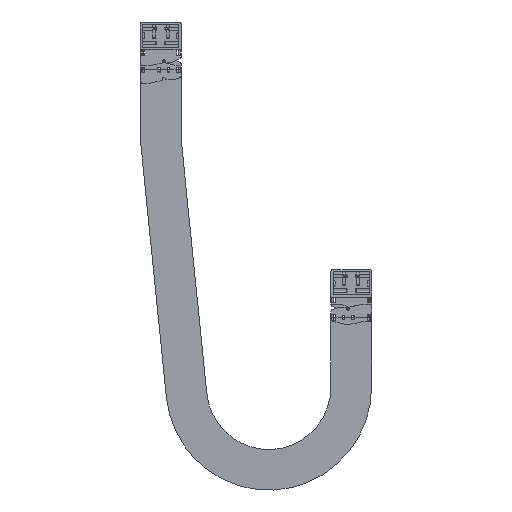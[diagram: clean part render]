
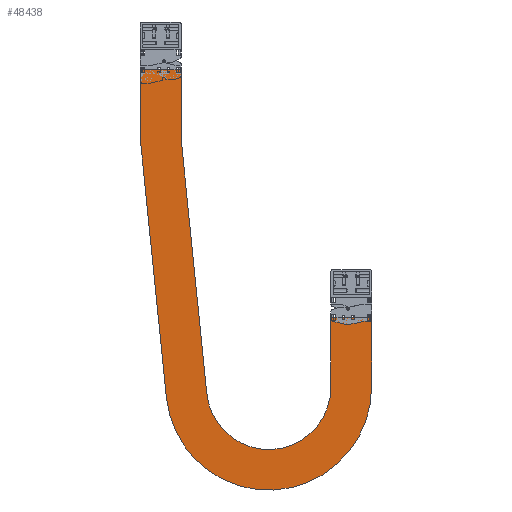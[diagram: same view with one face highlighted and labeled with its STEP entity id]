
A CAD part, left-side view. The second image highlights one B-rep face of the part: STEP entity #48438.
In plain terms, the highlighted planar face has unit normal (-1, 0, 0).
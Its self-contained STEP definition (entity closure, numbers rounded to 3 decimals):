
#47048=DIRECTION('',(0.,1.,0.));
#47049=VECTOR('',#47048,64.);
#47050=CARTESIAN_POINT('',(-35.,300.,0.));
#47051=LINE('',#47050,#47049);
#47261=DIRECTION('',(0.,-1.,0.));
#47262=VECTOR('',#47261,64.);
#47263=CARTESIAN_POINT('',(-35.,64.,-390.));
#47264=LINE('',#47263,#47262);
#47548=DIRECTION('',(0.,0.,-1.));
#47549=VECTOR('',#47548,111.863);
#47550=CARTESIAN_POINT('',(-35.,364.,0.));
#47551=LINE('',#47550,#47549);
#47555=DIRECTION('',(0.,0.,-1.));
#47556=VECTOR('',#47555,108.641);
#47557=CARTESIAN_POINT('',(-35.,300.,0.));
#47558=LINE('',#47557,#47556);
#47562=DIRECTION('',(0.,-0.1,-0.995));
#47563=VECTOR('',#47562,403.239);
#47564=CARTESIAN_POINT('',(-35.,300.,-108.641));
#47565=LINE('',#47564,#47563);
#47569=CARTESIAN_POINT('',(-35.,162.,-500.));
#47570=DIRECTION('',(-1.,0.,0.));
#47571=DIRECTION('',(0.,0.995,-0.1));
#47572=AXIS2_PLACEMENT_3D('',#47569,#47570,#47571);
#47577=DIRECTION('',(0.,0.,1.));
#47578=VECTOR('',#47577,110.);
#47579=CARTESIAN_POINT('',(-35.,64.,-500.));
#47580=LINE('',#47579,#47578);
#47591=DIRECTION('',(0.,0.,1.));
#47592=VECTOR('',#47591,110.);
#47593=CARTESIAN_POINT('',(-35.,0.,-500.));
#47594=LINE('',#47593,#47592);
#47605=CARTESIAN_POINT('',(-35.,162.,-500.));
#47606=DIRECTION('',(-1.,0.,0.));
#47607=DIRECTION('',(0.,0.995,-0.1));
#47608=AXIS2_PLACEMENT_3D('',#47605,#47606,#47607);
#47620=DIRECTION('',(0.,-0.1,-0.995));
#47621=VECTOR('',#47620,406.461);
#47622=CARTESIAN_POINT('',(-35.,364.,-111.863));
#47623=LINE('',#47622,#47621);
#47644=CARTESIAN_POINT('',(-35.,300.,0.));
#47646=VERTEX_POINT('',#47644);
#47647=CARTESIAN_POINT('',(-35.,364.,0.));
#47648=VERTEX_POINT('',#47647);
#47668=CARTESIAN_POINT('',(-35.,300.,-108.641));
#47670=VERTEX_POINT('',#47668);
#47671=CARTESIAN_POINT('',(-35.,364.,-111.863));
#47673=VERTEX_POINT('',#47671);
#47692=CARTESIAN_POINT('',(-35.,259.505,-509.842));
#47694=VERTEX_POINT('',#47692);
#47695=CARTESIAN_POINT('',(-35.,323.181,-516.269));
#47697=VERTEX_POINT('',#47695);
#47716=CARTESIAN_POINT('',(-35.,64.,-500.));
#47718=VERTEX_POINT('',#47716);
#47719=CARTESIAN_POINT('',(-35.,0.,-500.));
#47721=VERTEX_POINT('',#47719);
#47740=CARTESIAN_POINT('',(-35.,64.,-390.));
#47742=VERTEX_POINT('',#47740);
#47743=CARTESIAN_POINT('',(-35.,0.,-390.));
#47744=VERTEX_POINT('',#47743);
#48418=CARTESIAN_POINT('',(-35.,300.,0.));
#48419=DIRECTION('',(-1.,0.,0.));
#48420=DIRECTION('',(0.,1.,0.));
#48421=AXIS2_PLACEMENT_3D('',#48418,#48419,#48420);
#48422=PLANE('',#48421);
#48423=ORIENTED_EDGE('',*,*,#47754,.F.);
#48424=ORIENTED_EDGE('',*,*,#48356,.T.);
#48425=ORIENTED_EDGE('',*,*,#48335,.T.);
#48426=ORIENTED_EDGE('',*,*,#48313,.T.);
#48427=ORIENTED_EDGE('',*,*,#48291,.T.);
#48428=ORIENTED_EDGE('',*,*,#47969,.T.);
#48430=ORIENTED_EDGE('',*,*,#48429,.F.);
#48432=ORIENTED_EDGE('',*,*,#48431,.F.);
#48434=ORIENTED_EDGE('',*,*,#48433,.F.);
#48435=ORIENTED_EDGE('',*,*,#48403,.F.);
#48436=EDGE_LOOP('',(#48423,#48424,#48425,#48426,#48427,#48428,#48430,#48432,
#48434,#48435));
#48437=FACE_OUTER_BOUND('',#48436,.F.);
#47573=CIRCLE('',#47572,98.);
#47609=CIRCLE('',#47608,162.);
#47754=EDGE_CURVE('',#47646,#47648,#47051,.T.);
#47969=EDGE_CURVE('',#47742,#47744,#47264,.T.);
#48291=EDGE_CURVE('',#47718,#47742,#47580,.T.);
#48313=EDGE_CURVE('',#47694,#47718,#47573,.T.);
#48335=EDGE_CURVE('',#47670,#47694,#47565,.T.);
#48356=EDGE_CURVE('',#47646,#47670,#47558,.T.);
#48403=EDGE_CURVE('',#47648,#47673,#47551,.T.);
#48429=EDGE_CURVE('',#47721,#47744,#47594,.T.);
#48431=EDGE_CURVE('',#47697,#47721,#47609,.T.);
#48433=EDGE_CURVE('',#47673,#47697,#47623,.T.);
#48438=ADVANCED_FACE('',(#48437),#48422,.T.);
